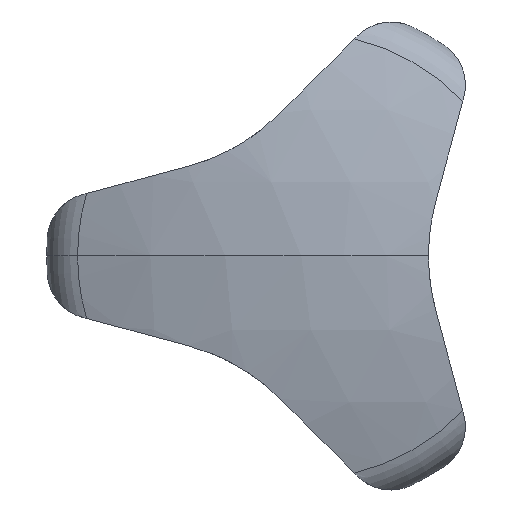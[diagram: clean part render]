
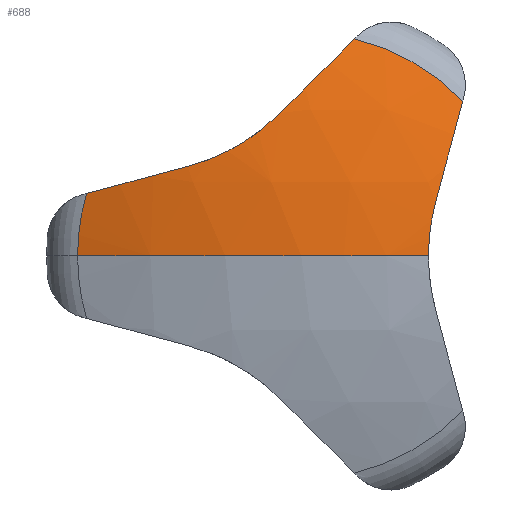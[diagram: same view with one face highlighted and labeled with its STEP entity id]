
A CAD part, left-side view. The second image highlights one B-rep face of the part: STEP entity #688.
In plain terms, the highlighted spherical face has radius 40 mm.
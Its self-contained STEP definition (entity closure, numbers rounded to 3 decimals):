
#1 = CARTESIAN_POINT ( 'NONE',  ( -19.954, 7.135, 5.629 ) ) ;
#4 = DIRECTION ( 'NONE',  ( -1., 0., 0. ) ) ;
#9 = DIRECTION ( 'NONE',  ( 0., -0.707, 0.707 ) ) ;
#16 = EDGE_CURVE ( 'NONE', #72, #1390, #211, .T. ) ;
#31 = EDGE_CURVE ( 'NONE', #1259, #780, #1293, .T. ) ;
#39 = CARTESIAN_POINT ( 'NONE',  ( -20.092, 6.05, 5.959 ) ) ;
#47 = DIRECTION ( 'NONE',  ( 0., 0., 1. ) ) ;
#65 = CARTESIAN_POINT ( 'NONE',  ( -20.192, -8., 0. ) ) ;
#72 = VERTEX_POINT ( 'NONE', #348 ) ;
#89 = VERTEX_POINT ( 'NONE', #1179 ) ;
#96 = ORIENTED_EDGE ( 'NONE', *, *, #944, .F. ) ;
#108 = AXIS2_PLACEMENT_3D ( 'NONE', #225, #1324, #4 ) ;
#119 = CARTESIAN_POINT ( 'NONE',  ( -18.45, 13.495, 3.926 ) ) ;
#123 = AXIS2_PLACEMENT_3D ( 'NONE', #1352, #47, #754 ) ;
#164 = CARTESIAN_POINT ( 'NONE',  ( -19.954, 1.308, 8.994 ) ) ;
#165 = CARTESIAN_POINT ( 'NONE',  ( 19., 0., 0. ) ) ;
#184 = CARTESIAN_POINT ( 'NONE',  ( -20.167, -8.047, 1.139 ) ) ;
#196 = CARTESIAN_POINT ( 'NONE',  ( -19.954, -8.443, 3.365 ) ) ;
#211 = CIRCLE ( 'NONE', #108, 40. ) ;
#217 = ORIENTED_EDGE ( 'NONE', *, *, #31, .F. ) ;
#225 = CARTESIAN_POINT ( 'NONE',  ( 19., 0., 0. ) ) ;
#243 = AXIS2_PLACEMENT_3D ( 'NONE', #1123, #530, #512 ) ;
#250 = ORIENTED_EDGE ( 'NONE', *, *, #607, .T. ) ;
#276 = CARTESIAN_POINT ( 'NONE',  ( -20.167, 5.004, 6.402 ) ) ;
#311 = CARTESIAN_POINT ( 'NONE',  ( -20.152, -8.075, 1.421 ) ) ;
#348 = CARTESIAN_POINT ( 'NONE',  ( -21., 0., 0. ) ) ;
#382 = VERTEX_POINT ( 'NONE', #1 ) ;
#394 = CARTESIAN_POINT ( 'NONE',  ( -20.192, 4.239, 6.79 ) ) ;
#421 = AXIS2_PLACEMENT_3D ( 'NONE', #533, #525, #981 ) ;
#454 = CARTESIAN_POINT ( 'NONE',  ( 19., -7.036, -1.885 ) ) ;
#512 = DIRECTION ( 'NONE',  ( 0., 1., 0. ) ) ;
#525 = DIRECTION ( 'NONE',  ( 0., -0.259, -0.966 ) ) ;
#530 = DIRECTION ( 'NONE',  ( 1., 0., 0. ) ) ;
#532 = B_SPLINE_CURVE_WITH_KNOTS ( 'NONE', 3,
 ( #164, #1113, #646, #394, #769, #276, #764, #39, #875, #1237 ),
 .UNSPECIFIED., .F., .F.,
 ( 4, 2, 2, 2, 4 ),
 ( 0., 0.003, 0.004, 0.005, 0.007 ),
 .UNSPECIFIED. ) ;
#533 = CARTESIAN_POINT ( 'NONE',  ( 19., 1.885, 7.036 ) ) ;
#579 = CARTESIAN_POINT ( 'NONE',  ( -18.45, -10.147, 9.724 ) ) ;
#601 = B_SPLINE_CURVE_WITH_KNOTS ( 'NONE', 3,
 ( #65, #684, #802, #184, #311, #1159, #1394, #1274 ),
 .UNSPECIFIED., .F., .F.,
 ( 4, 2, 2, 4 ),
 ( 0.003, 0.004, 0.005, 0.007 ),
 .UNSPECIFIED. ) ;
#606 = DIRECTION ( 'NONE',  ( 1., 0., 0. ) ) ;
#607 = EDGE_CURVE ( 'NONE', #382, #912, #969, .T. ) ;
#645 = CIRCLE ( 'NONE', #1517, 39.331 ) ;
#646 = CARTESIAN_POINT ( 'NONE',  ( -20.191, 3.005, 7.503 ) ) ;
#647 = DIRECTION ( 'NONE',  ( 0., 1., 0. ) ) ;
#680 = EDGE_LOOP ( 'NONE', ( #983, #1146, #1532, #1111, #217, #1444, #857, #250, #96 ) ) ;
#684 = CARTESIAN_POINT ( 'NONE',  ( -20.192, -8., 0.284 ) ) ;
#685 = DIRECTION ( 'NONE',  ( 0., -0.707, -0.707 ) ) ;
#688 = ADVANCED_FACE ( 'NONE', ( #1238 ), #883, .T. ) ;
#707 = DIRECTION ( 'NONE',  ( 0., 0.966, 0.259 ) ) ;
#712 = VERTEX_POINT ( 'NONE', #1160 ) ;
#727 = CARTESIAN_POINT ( 'NONE',  ( -18.45, 0., 0. ) ) ;
#754 = DIRECTION ( 'NONE',  ( 0., -1., 0. ) ) ;
#764 = CARTESIAN_POINT ( 'NONE',  ( -20.152, 5.263, 6.284 ) ) ;
#769 = CARTESIAN_POINT ( 'NONE',  ( -20.187, 4.492, 6.655 ) ) ;
#780 = VERTEX_POINT ( 'NONE', #579 ) ;
#784 = CARTESIAN_POINT ( 'NONE',  ( -18.45, -3.348, 13.65 ) ) ;
#801 = EDGE_CURVE ( 'NONE', #1259, #712, #1142, .T. ) ;
#802 = CARTESIAN_POINT ( 'NONE',  ( -20.187, -8.009, 0.571 ) ) ;
#857 = ORIENTED_EDGE ( 'NONE', *, *, #960, .T. ) ;
#875 = CARTESIAN_POINT ( 'NONE',  ( -20.033, 6.587, 5.777 ) ) ;
#883 = SPHERICAL_SURFACE ( 'NONE', #1227, 40. ) ;
#912 = VERTEX_POINT ( 'NONE', #119 ) ;
#915 = CIRCLE ( 'NONE', #123, 40. ) ;
#932 = DIRECTION ( 'NONE',  ( 0., 1., 0. ) ) ;
#944 = EDGE_CURVE ( 'NONE', #1390, #912, #1467, .T. ) ;
#960 = EDGE_CURVE ( 'NONE', #712, #382, #532, .T. ) ;
#969 = CIRCLE ( 'NONE', #421, 39.331 ) ;
#981 = DIRECTION ( 'NONE',  ( 0., -0.966, 0.259 ) ) ;
#983 = ORIENTED_EDGE ( 'NONE', *, *, #16, .F. ) ;
#1007 = EDGE_CURVE ( 'NONE', #72, #89, #915, .T. ) ;
#1012 = CARTESIAN_POINT ( 'NONE',  ( -18.45, 14.054, 0. ) ) ;
#1111 = ORIENTED_EDGE ( 'NONE', *, *, #1222, .T. ) ;
#1113 = CARTESIAN_POINT ( 'NONE',  ( -20.112, 2.111, 8.191 ) ) ;
#1123 = CARTESIAN_POINT ( 'NONE',  ( -18.45, 0., 0. ) ) ;
#1142 = CIRCLE ( 'NONE', #1349, 39.331 ) ;
#1146 = ORIENTED_EDGE ( 'NONE', *, *, #1007, .T. ) ;
#1159 = CARTESIAN_POINT ( 'NONE',  ( -20.092, -8.186, 2.263 ) ) ;
#1160 = CARTESIAN_POINT ( 'NONE',  ( -19.954, 1.308, 8.994 ) ) ;
#1179 = CARTESIAN_POINT ( 'NONE',  ( -20.192, -8., 0. ) ) ;
#1182 = DIRECTION ( 'NONE',  ( 0., 0.259, -0.966 ) ) ;
#1222 = EDGE_CURVE ( 'NONE', #1434, #780, #645, .T. ) ;
#1227 = AXIS2_PLACEMENT_3D ( 'NONE', #165, #1254, #647 ) ;
#1237 = CARTESIAN_POINT ( 'NONE',  ( -19.954, 7.135, 5.629 ) ) ;
#1238 = FACE_OUTER_BOUND ( 'NONE', #680, .T. ) ;
#1254 = DIRECTION ( 'NONE',  ( 0., 0., 1. ) ) ;
#1259 = VERTEX_POINT ( 'NONE', #784 ) ;
#1274 = CARTESIAN_POINT ( 'NONE',  ( -19.954, -8.443, 3.365 ) ) ;
#1285 = CARTESIAN_POINT ( 'NONE',  ( 19., 5.151, 5.151 ) ) ;
#1293 = CIRCLE ( 'NONE', #1384, 14.054 ) ;
#1324 = DIRECTION ( 'NONE',  ( 0., 0., -1. ) ) ;
#1349 = AXIS2_PLACEMENT_3D ( 'NONE', #1285, #685, #9 ) ;
#1352 = CARTESIAN_POINT ( 'NONE',  ( 19., 0., 0. ) ) ;
#1384 = AXIS2_PLACEMENT_3D ( 'NONE', #727, #606, #932 ) ;
#1390 = VERTEX_POINT ( 'NONE', #1012 ) ;
#1394 = CARTESIAN_POINT ( 'NONE',  ( -20.033, -8.296, 2.818 ) ) ;
#1423 = EDGE_CURVE ( 'NONE', #89, #1434, #601, .T. ) ;
#1434 = VERTEX_POINT ( 'NONE', #196 ) ;
#1444 = ORIENTED_EDGE ( 'NONE', *, *, #801, .T. ) ;
#1467 = CIRCLE ( 'NONE', #243, 14.054 ) ;
#1517 = AXIS2_PLACEMENT_3D ( 'NONE', #454, #707, #1182 ) ;
#1532 = ORIENTED_EDGE ( 'NONE', *, *, #1423, .T. ) ;
